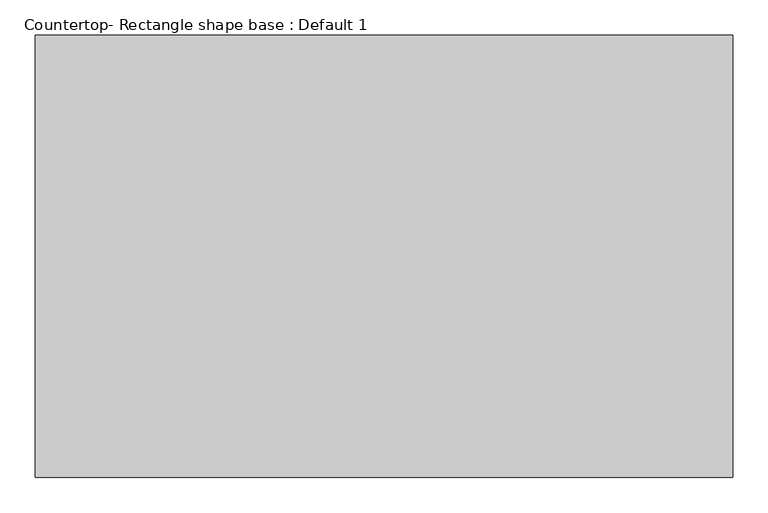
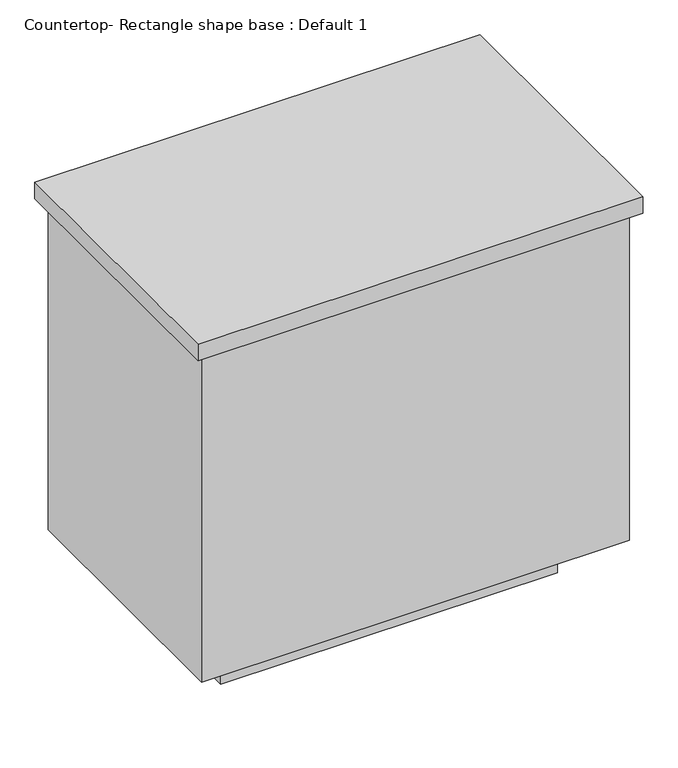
"""IFC4 building model written with IfcOpenShell, lengths in millimetres: proxy geometry, Countertop- Rectangle shape base : Default 1."""

import ifcopenshell
import ifcopenshell.guid

model = None  # the IFC model being written
_history = None  # IfcOwnerHistory: only IFC2X3 demands one
_inside = {}  # id of a spatial element -> (the spatial element, [elements in it])
_under = {}  # id of a project, library or spatial element -> (it, [spatial elements below it])
_declared = {}  # id of a project -> (the project, [libraries it declares])
_typed = {}  # id of a type object -> (the type object, [elements of that type])
_made_of = {}  # id of a material, layer set ... -> (it, [elements and type objects made of it])


def new_model(schema):
    """Start an empty IFC model of exactly this schema.

    Asked for "IFC4X3", IfcOpenShell would pick the latest addendum, in which some entities
    have other attributes; the version numbers below select the first issue.
    IFC2X3 requires an IfcOwnerHistory on every rooted entity: one is made here for all.
    """
    global model, _history
    if schema == "IFC4X3":
        model = ifcopenshell.file(schema_version=(4, 3, 0, 0))
    else:
        model = ifcopenshell.file(schema=schema)
    _inside.clear()
    _under.clear()
    _declared.clear()
    _typed.clear()
    _made_of.clear()
    _history = None
    if model.schema == "IFC2X3":
        org = make("IfcOrganization", Name="unknown")
        user = make(
            "IfcPersonAndOrganization",
            ThePerson=make("IfcPerson", FamilyName="unknown"),
            TheOrganization=org,
        )
        app = make(
            "IfcApplication",
            ApplicationDeveloper=org,
            Version="unknown",
            ApplicationFullName="unknown",
            ApplicationIdentifier="unknown",
        )
        _history = make(
            "IfcOwnerHistory",
            OwningUser=user,
            OwningApplication=app,
            ChangeAction="ADDED",
            CreationDate=0,
        )
    return model


def make(cls, **values):
    """One entity of the class cls with the attributes given. An attribute that is None is left unset."""
    return model.create_entity(
        cls, **{name: value for name, value in values.items() if value is not None}
    )


def rooted(cls, **values):
    """An entity with a GlobalId (a new one), such as an element, a storey or a relation."""
    return make(cls, GlobalId=ifcopenshell.guid.new(), OwnerHistory=_history, **values)


def si_unit(unit_type, name, prefix=None):
    """IfcSIUnit, for example si_unit("LENGTHUNIT", "METRE", prefix="MILLI")."""
    return make("IfcSIUnit", UnitType=unit_type, Prefix=prefix, Name=name)


def assignment(units):
    """IfcUnitAssignment: the units of a project."""
    return None if units is None else make("IfcUnitAssignment", Units=units)


def point(xyz):
    """IfcCartesianPoint."""
    return None if xyz is None else make("IfcCartesianPoint", Coordinates=xyz)


def direction(xyz):
    """IfcDirection."""
    return None if xyz is None else make("IfcDirection", DirectionRatios=xyz)


def frame(location, z_axis=None, x_axis=None):
    """IfcAxis2Placement3D, a coordinate frame: its origin and axes. An axis left out is left unset."""
    return make(
        "IfcAxis2Placement3D",
        Location=point(location),
        Axis=direction(z_axis),
        RefDirection=direction(x_axis),
    )


def origin():
    """The frame at (0, 0, 0) with its axes left unset."""
    return frame((0.0, 0.0, 0.0))


def origin_with_axes():
    """The frame at (0, 0, 0) with the z axis (0, 0, 1) and the x axis (1, 0, 0) written out."""
    return frame((0.0, 0.0, 0.0), z_axis=(0.0, 0.0, 1.0), x_axis=(1.0, 0.0, 0.0))


def place(relative_to, where):
    """IfcLocalPlacement: puts the frame where relative to a parent placement (None: the world)."""
    return make(
        "IfcLocalPlacement", PlacementRelTo=relative_to, RelativePlacement=where
    )


def context(
    kind, dimensions, precision=None, world=None, true_north=None, identifier=None
):
    """IfcGeometricRepresentationContext, for example the 3D "Model" context."""
    return make(
        "IfcGeometricRepresentationContext",
        ContextIdentifier=identifier,
        ContextType=kind,
        CoordinateSpaceDimension=dimensions,
        Precision=precision,
        WorldCoordinateSystem=world,
        TrueNorth=true_north,
    )


def project(units=None, contexts=None):
    """IfcProject with its units and contexts."""
    return rooted(
        "IfcProject",
        Name="project",
        RepresentationContexts=contexts,
        UnitsInContext=assignment(units),
    )


def spatial(cls, under=None, at=None, **own):
    """A site, building, storey or space (cls), placed at a placement, below another one or the project."""
    s = rooted(cls, ObjectPlacement=at, **own)
    if under is not None:
        _under.setdefault(under.id(), (under, []))[1].append(s)
    return s


def polyline(points):
    """IfcPolyline through the points."""
    return make("IfcPolyline", Points=[point(p) for p in points])


def outline(outer, holes=None, kind="AREA"):
    """IfcArbitraryClosedProfileDef: a profile drawn as a closed curve; with holes, ...WithVoids."""
    if holes is None:
        return make("IfcArbitraryClosedProfileDef", ProfileType=kind, OuterCurve=outer)
    return make(
        "IfcArbitraryProfileDefWithVoids",
        ProfileType=kind,
        OuterCurve=outer,
        InnerCurves=holes,
    )


def extrude(swept, where, along, depth):
    """IfcExtrudedAreaSolid: the profile swept, set in the frame where, extruded along a direction by depth."""
    return make(
        "IfcExtrudedAreaSolid",
        SweptArea=swept,
        Position=where,
        ExtrudedDirection=direction(along),
        Depth=depth,
    )


def shape(context_of_items, identifier, shape_type, items):
    """IfcShapeRepresentation: the items that make up one representation, for example the "Body"."""
    return make(
        "IfcShapeRepresentation",
        ContextOfItems=context_of_items,
        RepresentationIdentifier=identifier,
        RepresentationType=shape_type,
        Items=items,
    )


def source(mapping_origin, context_of_items, identifier, shape_type, items):
    """IfcRepresentationMap: a shape defined once, which mapped items show again and again."""
    return make(
        "IfcRepresentationMap",
        MappingOrigin=mapping_origin,
        MappedRepresentation=shape(context_of_items, identifier, shape_type, items),
    )


def transform(
    local_origin,
    x_axis=None,
    y_axis=None,
    z_axis=None,
    scale=None,
    scale2=None,
    scale3=None,
    uniform=True,
):
    """IfcCartesianTransformationOperator3D, or its non-uniform kind. x_axis, y_axis, z_axis: its Axis1, 2, 3."""
    if uniform:
        return make(
            "IfcCartesianTransformationOperator3D",
            Axis1=direction(x_axis),
            Axis2=direction(y_axis),
            LocalOrigin=point(local_origin),
            Scale=scale,
            Axis3=direction(z_axis),
        )
    return make(
        "IfcCartesianTransformationOperator3DnonUniform",
        Axis1=direction(x_axis),
        Axis2=direction(y_axis),
        LocalOrigin=point(local_origin),
        Scale=scale,
        Axis3=direction(z_axis),
        Scale2=scale2,
        Scale3=scale3,
    )


def mapped(mapping_source, mapping_target):
    """IfcMappedItem: shows the shape of a source again, moved by a transform."""
    return make(
        "IfcMappedItem", MappingSource=mapping_source, MappingTarget=mapping_target
    )


def made_of(thing, what):
    """Note that an element or type object is made of a material, layer set ...; save() writes the relation."""
    if what is not None:
        _made_of.setdefault(what.id(), (what, []))[1].append(thing)
    return thing


def element(
    cls,
    number,
    at=None,
    inside=None,
    cuts=None,
    type_object=None,
    material=None,
    context=None,
    identifier="Body",
    shape_type=None,
    held_by="IfcProductDefinitionShape",
    body=None,
    shapes=None,
    **own,
):
    """One element of the class cls, such as IfcWall. Its Tag is "e" and its number.

    at: its placement. inside: the storey or other place that contains it. cuts: it is an
    opening in that element (IfcRelVoidsElement). A single representation is given by context,
    identifier, shape_type and body (its items); several are given by shapes. held_by: the class
    of the entity that holds the representations. save() writes the other relations.
    """
    e = rooted(cls, Tag="e%d" % number, ObjectPlacement=at, **own)
    if body is not None:
        shapes = [shape(context, identifier, shape_type, body)]
    if shapes is not None:
        e.Representation = make(held_by, Representations=shapes)
    if inside is not None:
        _inside.setdefault(inside.id(), (inside, []))[1].append(e)
    if cuts is not None:
        rooted(
            "IfcRelVoidsElement", RelatingBuildingElement=cuts, RelatedOpeningElement=e
        )
    if type_object is not None:
        _typed.setdefault(type_object.id(), (type_object, []))[1].append(e)
    return made_of(e, material)


def aggregate(whole, parts):
    """IfcRelAggregates: a whole, such as a stair, and the parts it consists of."""
    return rooted("IfcRelAggregates", RelatingObject=whole, RelatedObjects=parts)


def save(model, path):
    """Write the relations noted so far, then the file.

    IfcRelAggregates (storeys below a building ...), IfcRelContainedInSpatialStructure (elements
    in a storey), IfcRelDefinesByType, IfcRelAssociatesMaterial and IfcRelDeclares: one each for
    every whole, place, type object, material and project.
    """
    for whole, parts in _under.values():
        aggregate(whole, parts)
    for where, things in _inside.values():
        rooted(
            "IfcRelContainedInSpatialStructure",
            RelatedElements=things,
            RelatingStructure=where,
        )
    for kind, things in _typed.values():
        rooted("IfcRelDefinesByType", RelatedObjects=things, RelatingType=kind)
    for what, things in _made_of.values():
        rooted("IfcRelAssociatesMaterial", RelatedObjects=things, RelatingMaterial=what)
    for by, libraries in _declared.values():
        rooted("IfcRelDeclares", RelatingContext=by, RelatedDefinitions=libraries)
    model.write(path)


def countertop_rectangle_shape_base_default_1_4019be03(model_context):
    return source(origin(), model_context, "Body", "SweptSolid", [
        extrude(outline(polyline([(266.7, 66.675), (266.7, 695.325), (1257.3, 695.325), (1257.3, 66.675), (266.7, 66.675)])), frame((0.0, 0.0, 876.3), z_axis=(0.0, 0.0, 1.0), x_axis=(1.0, 0.0, 0.0)), (0.0, 0.0, 1.0), 38.1),
        extrude(outline(polyline([(1238.25, 676.275), (1238.25, 85.725), (285.75, 85.725), (285.75, 676.275), (1238.25, 676.275)])), frame((0.0, 0.0, 101.6), z_axis=(0.0, 0.0, 1.0), x_axis=(1.0, 0.0, 0.0)), (0.0, 0.0, 1.0), 774.7),
        extrude(outline(polyline([(1136.65, 574.675), (1136.65, 187.325), (387.35, 187.325), (387.35, 574.675), (1136.65, 574.675)])), origin_with_axes(), (0.0, 0.0, 1.0), 101.6),
    ])


if __name__ == "__main__":
    model = new_model("IFC4")
    model_context = context("Model", 3, world=origin())
    ifc_project = project(units=[si_unit("LENGTHUNIT", "METRE", prefix="MILLI")], contexts=[model_context])
    site = spatial("IfcSite", under=ifc_project)
    building = spatial("IfcBuilding", under=site)
    placement = place(None, origin())
    countertop_rectangle_shape_base_default_1_shape = countertop_rectangle_shape_base_default_1_4019be03(model_context)
    element("IfcBuildingElementProxy", 1, Name="Countertop- Rectangle shape base : Default 1", ObjectType="Countertop- Rectangle shape base : Default 1", at=placement, inside=building, context=model_context, shape_type="MappedRepresentation", body=[
        mapped(countertop_rectangle_shape_base_default_1_shape, transform((0.0, 0.0, 0.0), x_axis=(1.0, 0.0, 0.0), y_axis=(0.0, 1.0, 0.0), z_axis=(0.0, 0.0, 1.0))),
    ])
    save(model, "model.ifc")
